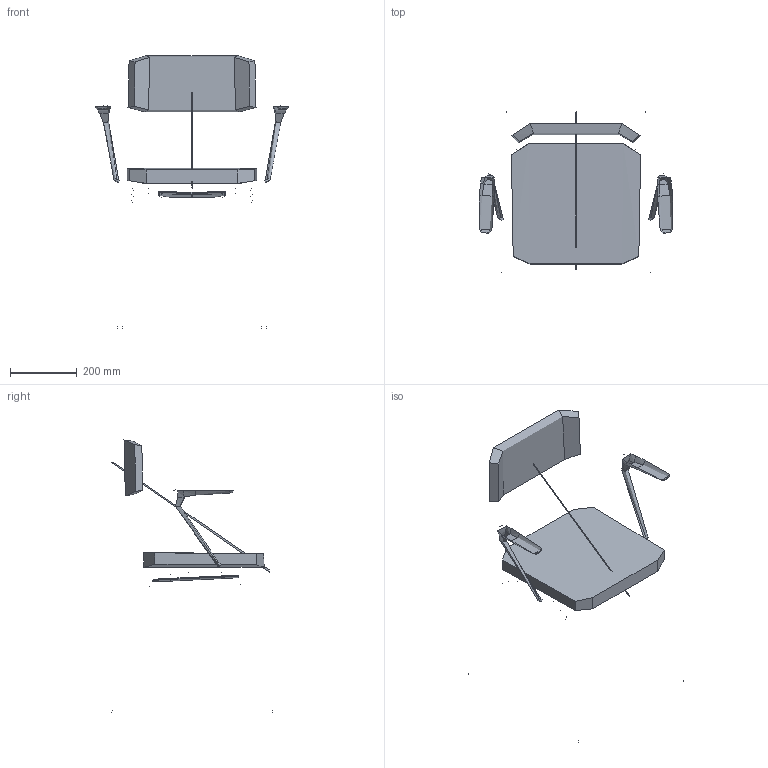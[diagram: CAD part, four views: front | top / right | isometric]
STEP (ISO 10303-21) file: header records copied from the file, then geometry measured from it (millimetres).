
FILE_DESCRIPTION(/* description */ (''),/* implementation_level */ '2;1');
FILE_NAME(/* name */ 'ZOE 221-BL,BR-ZOE',/* time_stamp */ '2023-05-16T22:26:17+02:00',/* author */ (''),/* organization */ (''),/* preprocessor_version */ 'ST-DEVELOPER v16.5',/* originating_system */ 'Rhino 7.29',/* authorisation */ '');
FILE_SCHEMA (('CONFIG_CONTROL_DESIGN'));
Length unit declared in the file: millimetre
Products named in the file (1): Document
Bounding box: 578.69 x 482.19 x 813.24 mm (x, y, z)
Volume: 13784024.3 mm3; surface area: 1424680.2 mm2
Topology: 2 solids, 16 shells, 129 faces, 326 edges, 212 vertices
Faces by surface type: bspline 97, cylinder 18, plane 14
Full cylindrical faces by diameter (mm): 18 x16, 22 x2
Entity records: 19514 total; most frequent: CARTESIAN_POINT 17438, ORIENTED_EDGE 582, EDGE_CURVE 323, B_SPLINE_CURVE_WITH_KNOTS 246, VERTEX_POINT 210, EDGE_LOOP 133, ADVANCED_FACE 129, FACE_OUTER_BOUND 129
